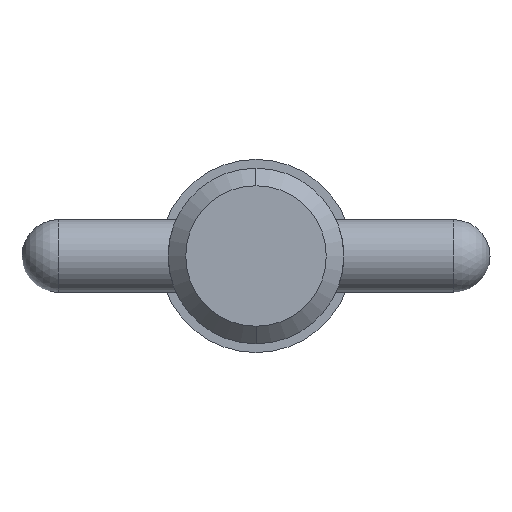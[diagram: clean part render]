
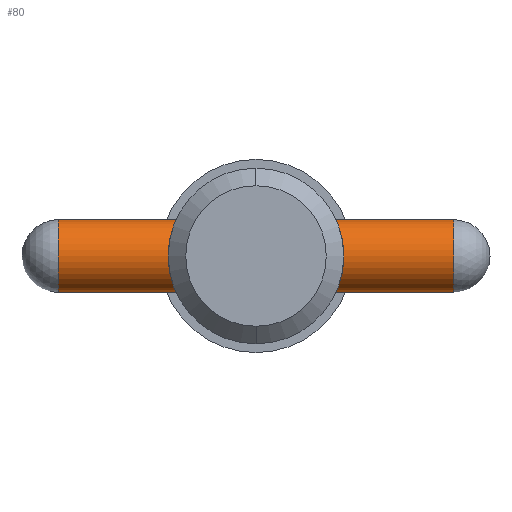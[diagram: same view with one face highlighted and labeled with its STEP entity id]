
A CAD part, left-side view. The second image highlights one B-rep face of the part: STEP entity #80.
In plain terms, the highlighted cylindrical face has radius 1.98 mm (diameter 3.96 mm), a partial arc.
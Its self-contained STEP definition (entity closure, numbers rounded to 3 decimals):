
#34 = ORIENTED_EDGE ( 'NONE', *, *, #963, .T. ) ;
#43 = ORIENTED_EDGE ( 'NONE', *, *, #650, .T. ) ;
#66 = FACE_OUTER_BOUND ( 'NONE', #227, .T. ) ;
#76 = AXIS2_PLACEMENT_3D ( 'NONE', #530, #854, #596 ) ;
#80 = ADVANCED_FACE ( 'NONE', ( #66 ), #384, .T. ) ;
#159 = CARTESIAN_POINT ( 'NONE',  ( 0., 10.72, 1.98 ) ) ;
#171 = CARTESIAN_POINT ( 'NONE',  ( 0., -10.72, -1.98 ) ) ;
#184 = CARTESIAN_POINT ( 'NONE',  ( 0., -10.72, 1.98 ) ) ;
#202 = DIRECTION ( 'NONE',  ( 0., 0., -1. ) ) ;
#227 = EDGE_LOOP ( 'NONE', ( #895, #325, #43, #34 ) ) ;
#246 = DIRECTION ( 'NONE',  ( 0., -1., 0. ) ) ;
#260 = VERTEX_POINT ( 'NONE', #159 ) ;
#263 = EDGE_CURVE ( 'NONE', #260, #280, #274, .T. ) ;
#274 = CIRCLE ( 'NONE', #852, 1.98 ) ;
#280 = VERTEX_POINT ( 'NONE', #564 ) ;
#293 = CARTESIAN_POINT ( 'NONE',  ( 0., 12.7, 1.98 ) ) ;
#301 = LINE ( 'NONE', #938, #758 ) ;
#302 = VERTEX_POINT ( 'NONE', #171 ) ;
#303 = CIRCLE ( 'NONE', #351, 1.98 ) ;
#325 = ORIENTED_EDGE ( 'NONE', *, *, #263, .T. ) ;
#351 = AXIS2_PLACEMENT_3D ( 'NONE', #521, #433, #202 ) ;
#384 = CYLINDRICAL_SURFACE ( 'NONE', #76, 1.98 ) ;
#433 = DIRECTION ( 'NONE',  ( 0., 1., 0. ) ) ;
#442 = VECTOR ( 'NONE', #524, 1000. ) ;
#521 = CARTESIAN_POINT ( 'NONE',  ( 0., -10.72, 0. ) ) ;
#524 = DIRECTION ( 'NONE',  ( 0., -1., 0. ) ) ;
#530 = CARTESIAN_POINT ( 'NONE',  ( 0., 12.7, 0. ) ) ;
#531 = DIRECTION ( 'NONE',  ( 0., -1., 0. ) ) ;
#557 = EDGE_CURVE ( 'NONE', #260, #816, #681, .T. ) ;
#564 = CARTESIAN_POINT ( 'NONE',  ( 0., 10.72, -1.98 ) ) ;
#596 = DIRECTION ( 'NONE',  ( 0., 0., -1. ) ) ;
#629 = CARTESIAN_POINT ( 'NONE',  ( 0., 10.72, 0. ) ) ;
#650 = EDGE_CURVE ( 'NONE', #280, #302, #301, .T. ) ;
#681 = LINE ( 'NONE', #293, #442 ) ;
#758 = VECTOR ( 'NONE', #531, 1000. ) ;
#795 = DIRECTION ( 'NONE',  ( 0., 0., -1. ) ) ;
#816 = VERTEX_POINT ( 'NONE', #184 ) ;
#852 = AXIS2_PLACEMENT_3D ( 'NONE', #629, #246, #795 ) ;
#854 = DIRECTION ( 'NONE',  ( 0., -1., 0. ) ) ;
#895 = ORIENTED_EDGE ( 'NONE', *, *, #557, .F. ) ;
#938 = CARTESIAN_POINT ( 'NONE',  ( 0., 12.7, -1.98 ) ) ;
#963 = EDGE_CURVE ( 'NONE', #302, #816, #303, .T. ) ;
